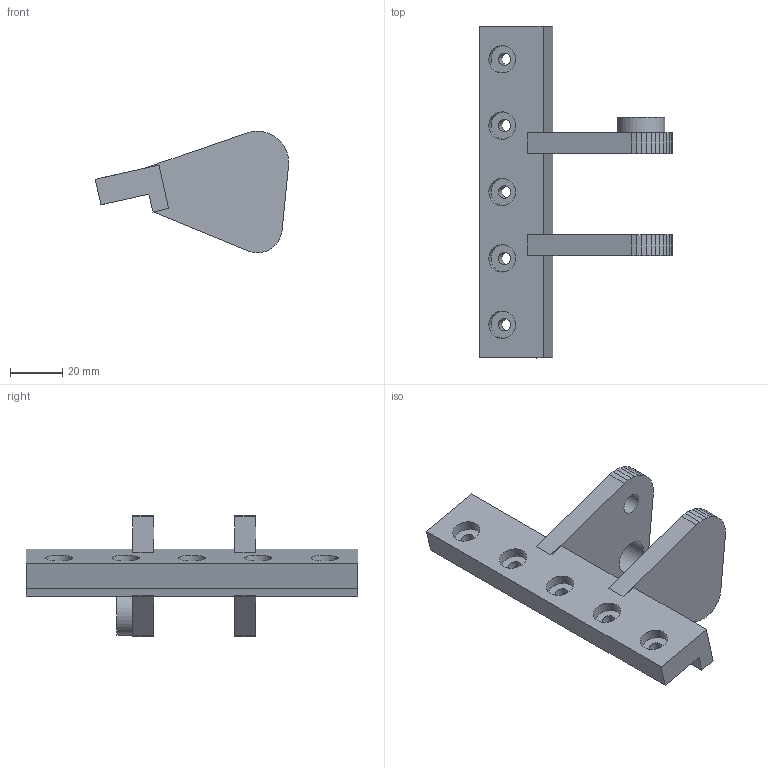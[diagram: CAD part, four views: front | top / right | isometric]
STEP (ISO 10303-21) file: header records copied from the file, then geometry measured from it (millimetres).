
FILE_DESCRIPTION(('Open CASCADE Model'),'2;1');
FILE_NAME('Open CASCADE Shape Model','2026-10-17T21:54:41',('Author'),( 'Open CASCADE'),'Open CASCADE STEP processor 7.9','Open CASCADE 7.9' ,'Unknown');
FILE_SCHEMA(('AUTOMOTIVE_DESIGN { 1 0 10303 214 1 1 1 1 }'));
Length unit declared in the file: millimetre
Products named in the file (1): Open CASCADE STEP translator 7.9 1
Bounding box: 74.03 x 127 x 46.5 mm (x, y, z)
Volume: 61125.7 mm3; surface area: 21730.9 mm2
Topology: 1 solids, 1 shells, 89 faces, 240 edges, 160 vertices
Faces by surface type: plane 75, cylinder 14
Full cylindrical faces by diameter (mm): 4.7 x5, 6 x1, 8 x1, 10.5 x5, 13 x1, 18 x1
Entity records: 5947 total; most frequent: CARTESIAN_POINT 1096, DIRECTION 887, LINE 640, VECTOR 640, ORIENTED_EDGE 480, PCURVE 480, DEFINITIONAL_REPRESENTATION 480, EDGE_CURVE 240
